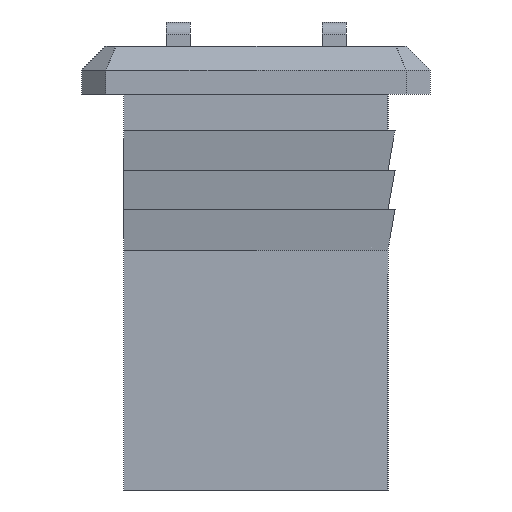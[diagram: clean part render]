
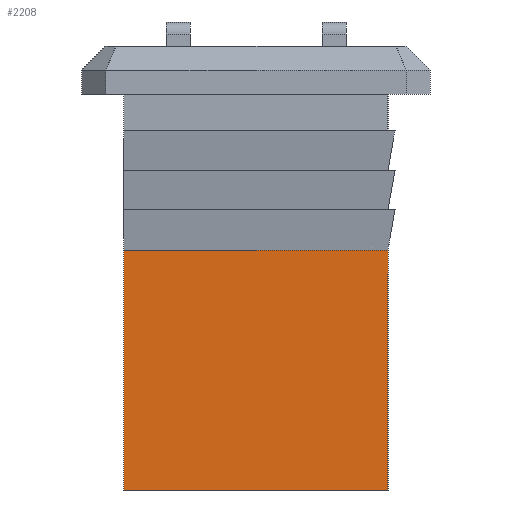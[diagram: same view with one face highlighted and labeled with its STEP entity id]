
A CAD part, left-side view. The second image highlights one B-rep face of the part: STEP entity #2208.
In plain terms, the highlighted planar face has unit normal (-1, 0, 0).
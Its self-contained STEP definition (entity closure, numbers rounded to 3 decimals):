
#90=FACE_OUTER_BOUND('',#216,.T.);
#216=EDGE_LOOP('',(#1570,#1571,#1572,#1573));
#387=LINE('',#3196,#682);
#410=LINE('',#3243,#705);
#411=LINE('',#3245,#706);
#412=LINE('',#3246,#707);
#682=VECTOR('',#2561,11.);
#705=VECTOR('',#2606,10.);
#706=VECTOR('',#2607,11.);
#707=VECTOR('',#2608,10.);
#965=VERTEX_POINT('',#3190);
#966=VERTEX_POINT('',#3194);
#979=VERTEX_POINT('',#3242);
#980=VERTEX_POINT('',#3244);
#1185=EDGE_CURVE('',#965,#966,#387,.T.);
#1208=EDGE_CURVE('',#966,#979,#410,.T.);
#1209=EDGE_CURVE('',#980,#979,#411,.T.);
#1210=EDGE_CURVE('',#965,#980,#412,.T.);
#1570=ORIENTED_EDGE('',*,*,#1185,.T.);
#1571=ORIENTED_EDGE('',*,*,#1208,.T.);
#1572=ORIENTED_EDGE('',*,*,#1209,.F.);
#1573=ORIENTED_EDGE('',*,*,#1210,.F.);
#2097=PLANE('',#2337);
#2208=ADVANCED_FACE('',(#90),#2097,.T.);
#2337=AXIS2_PLACEMENT_3D('',#3241,#2604,#2605);
#2561=DIRECTION('',(0.,1.,0.));
#2604=DIRECTION('center_axis',(-1.,0.,0.));
#2605=DIRECTION('ref_axis',(0.,1.,0.));
#2606=DIRECTION('',(0.,0.,-1.));
#2607=DIRECTION('',(0.,1.,0.));
#2608=DIRECTION('',(0.,0.,-1.));
#3190=CARTESIAN_POINT('',(-15.6,-5.5,-6.5));
#3194=CARTESIAN_POINT('',(-15.6,5.5,-6.5));
#3196=CARTESIAN_POINT('',(-15.6,-5.5,-6.5));
#3241=CARTESIAN_POINT('Origin',(-15.6,-5.5,0.));
#3242=CARTESIAN_POINT('',(-15.6,5.5,-16.5));
#3243=CARTESIAN_POINT('',(-15.6,5.5,0.));
#3244=CARTESIAN_POINT('',(-15.6,-5.5,-16.5));
#3245=CARTESIAN_POINT('',(-15.6,-5.5,-16.5));
#3246=CARTESIAN_POINT('',(-15.6,-5.5,0.));
